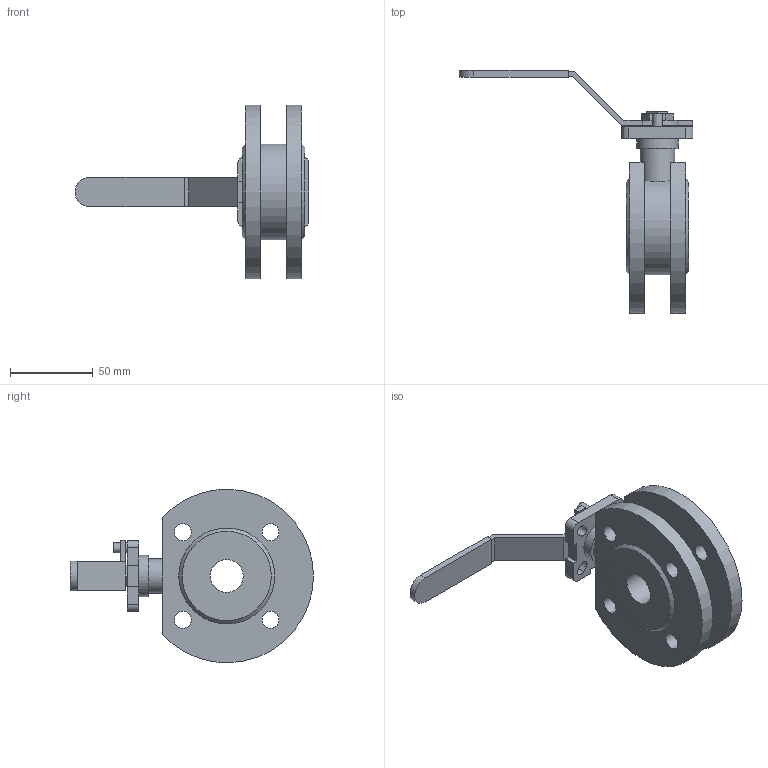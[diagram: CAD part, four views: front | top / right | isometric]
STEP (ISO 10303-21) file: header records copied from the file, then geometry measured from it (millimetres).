
FILE_DESCRIPTION (( 'STEP AP203' ), '1' );
FILE_NAME ('01.622I020X16CP.STEP', '2018-10-23T08:48:27', ( 'dell2' ), ( 'Microsoft' ), 'SwSTEP 2.0', 'SolidWorks 2014', '' );
FILE_SCHEMA (( 'CONFIG_CONTROL_DESIGN' ));
Length unit declared in the file: millimetre
Products named in the file (1): 01.622I020X16CP
Bounding box: 141.5 x 147 x 104.97 mm (x, y, z)
Volume: 209005.6 mm3; surface area: 50941.2 mm2
Topology: 1 solids, 1 shells, 98 faces, 268 edges, 181 vertices
Faces by surface type: plane 67, cylinder 29, cone 2
Full cylindrical faces by diameter (mm): 6 x1, 10.2 x8, 20 x1, 21 x1, 25 x1
Entity records: 3145 total; most frequent: CARTESIAN_POINT 569, DIRECTION 505, ORIENTED_EDGE 492, EDGE_CURVE 246, VECTOR 181, LINE 181, VERTEX_POINT 173, AXIS2_PLACEMENT_3D 162
